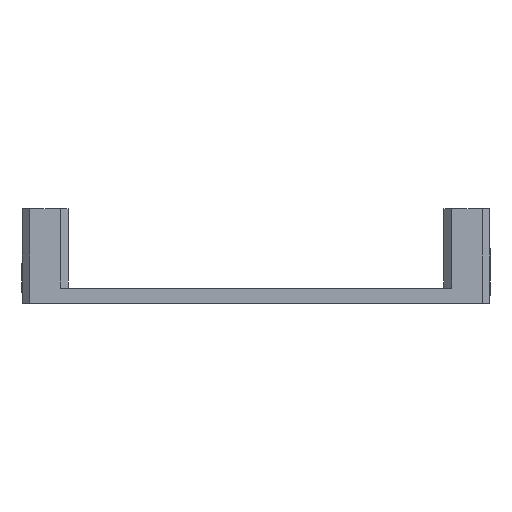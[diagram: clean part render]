
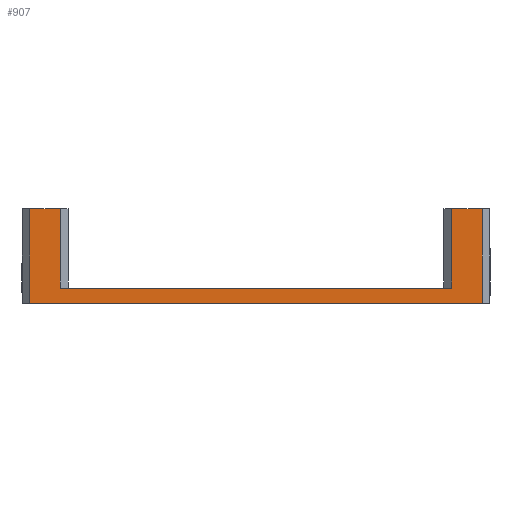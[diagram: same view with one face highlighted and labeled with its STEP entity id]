
A CAD part, front view. The second image highlights one B-rep face of the part: STEP entity #907.
In plain terms, the highlighted planar face has unit normal (0, -1, 0).
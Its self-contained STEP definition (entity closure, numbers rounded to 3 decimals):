
#36 = CARTESIAN_POINT ( 'NONE',  ( 59., -74., 4. ) ) ;
#52 = EDGE_CURVE ( 'NONE', #638, #1961, #683, .T. ) ;
#167 = CARTESIAN_POINT ( 'NONE',  ( -59., -74., 4. ) ) ;
#175 = DIRECTION ( 'NONE',  ( 1., 0., 0. ) ) ;
#234 = EDGE_CURVE ( 'NONE', #385, #1314, #1422, .T. ) ;
#261 = EDGE_CURVE ( 'NONE', #1219, #1961, #670, .T. ) ;
#292 = EDGE_CURVE ( 'NONE', #384, #1219, #1265, .T. ) ;
#300 = VECTOR ( 'NONE', #1042, 1000. ) ;
#331 = ORIENTED_EDGE ( 'NONE', *, *, #878, .F. ) ;
#363 = CARTESIAN_POINT ( 'NONE',  ( -51., -74., 24.7 ) ) ;
#384 = VERTEX_POINT ( 'NONE', #363 ) ;
#385 = VERTEX_POINT ( 'NONE', #1939 ) ;
#428 = CARTESIAN_POINT ( 'NONE',  ( 51., -74., 24.7 ) ) ;
#455 = VECTOR ( 'NONE', #1154, 1000. ) ;
#462 = DIRECTION ( 'NONE',  ( 0., 0., 1. ) ) ;
#482 = DIRECTION ( 'NONE',  ( 1., 0., 0. ) ) ;
#530 = CARTESIAN_POINT ( 'NONE',  ( 51., -74., 24.7 ) ) ;
#553 = ORIENTED_EDGE ( 'NONE', *, *, #52, .T. ) ;
#599 = ORIENTED_EDGE ( 'NONE', *, *, #630, .T. ) ;
#630 = EDGE_CURVE ( 'NONE', #1426, #851, #1515, .T. ) ;
#638 = VERTEX_POINT ( 'NONE', #428 ) ;
#639 = DIRECTION ( 'NONE',  ( 1., 0., 0. ) ) ;
#662 = ORIENTED_EDGE ( 'NONE', *, *, #234, .F. ) ;
#670 = LINE ( 'NONE', #1568, #1015 ) ;
#683 = LINE ( 'NONE', #530, #455 ) ;
#761 = AXIS2_PLACEMENT_3D ( 'NONE', #167, #1687, #462 ) ;
#829 = DIRECTION ( 'NONE',  ( 0., 0., -1. ) ) ;
#851 = VERTEX_POINT ( 'NONE', #947 ) ;
#878 = EDGE_CURVE ( 'NONE', #1426, #384, #1714, .T. ) ;
#907 = ADVANCED_FACE ( 'NONE', ( #1563 ), #1231, .F. ) ;
#925 = CARTESIAN_POINT ( 'NONE',  ( -59., -74., 24.7 ) ) ;
#947 = CARTESIAN_POINT ( 'NONE',  ( -59., -74., 0. ) ) ;
#974 = EDGE_LOOP ( 'NONE', ( #1820, #662, #1144, #553, #1729, #1444, #331, #599 ) ) ;
#1015 = VECTOR ( 'NONE', #175, 1000. ) ;
#1042 = DIRECTION ( 'NONE',  ( 1., 0., 0. ) ) ;
#1048 = CARTESIAN_POINT ( 'NONE',  ( -59., -74., 24.7 ) ) ;
#1074 = LINE ( 'NONE', #1850, #300 ) ;
#1078 = CARTESIAN_POINT ( 'NONE',  ( 51., -74., 4. ) ) ;
#1084 = CARTESIAN_POINT ( 'NONE',  ( -59., -74., 4. ) ) ;
#1087 = EDGE_CURVE ( 'NONE', #638, #385, #1074, .T. ) ;
#1144 = ORIENTED_EDGE ( 'NONE', *, *, #1087, .F. ) ;
#1154 = DIRECTION ( 'NONE',  ( 0., 0., -1. ) ) ;
#1219 = VERTEX_POINT ( 'NONE', #1382 ) ;
#1231 = PLANE ( 'NONE',  #761 ) ;
#1259 = LINE ( 'NONE', #1880, #1324 ) ;
#1265 = LINE ( 'NONE', #1711, #1396 ) ;
#1293 = DIRECTION ( 'NONE',  ( 0., 0., -1. ) ) ;
#1314 = VERTEX_POINT ( 'NONE', #1540 ) ;
#1322 = EDGE_CURVE ( 'NONE', #851, #1314, #1259, .T. ) ;
#1324 = VECTOR ( 'NONE', #482, 1000. ) ;
#1382 = CARTESIAN_POINT ( 'NONE',  ( -51., -74., 4. ) ) ;
#1396 = VECTOR ( 'NONE', #1293, 1000. ) ;
#1422 = LINE ( 'NONE', #36, #1655 ) ;
#1426 = VERTEX_POINT ( 'NONE', #1048 ) ;
#1444 = ORIENTED_EDGE ( 'NONE', *, *, #292, .F. ) ;
#1515 = LINE ( 'NONE', #1084, #2011 ) ;
#1540 = CARTESIAN_POINT ( 'NONE',  ( 59., -74., 0. ) ) ;
#1563 = FACE_OUTER_BOUND ( 'NONE', #974, .T. ) ;
#1568 = CARTESIAN_POINT ( 'NONE',  ( -59., -74., 4. ) ) ;
#1652 = DIRECTION ( 'NONE',  ( 0., 0., -1. ) ) ;
#1655 = VECTOR ( 'NONE', #829, 1000. ) ;
#1687 = DIRECTION ( 'NONE',  ( 0., 1., 0. ) ) ;
#1711 = CARTESIAN_POINT ( 'NONE',  ( -51., -74., 24.7 ) ) ;
#1714 = LINE ( 'NONE', #925, #1927 ) ;
#1729 = ORIENTED_EDGE ( 'NONE', *, *, #261, .F. ) ;
#1820 = ORIENTED_EDGE ( 'NONE', *, *, #1322, .T. ) ;
#1850 = CARTESIAN_POINT ( 'NONE',  ( 51., -74., 24.7 ) ) ;
#1880 = CARTESIAN_POINT ( 'NONE',  ( -59., -74., 0. ) ) ;
#1927 = VECTOR ( 'NONE', #639, 1000. ) ;
#1939 = CARTESIAN_POINT ( 'NONE',  ( 59., -74., 24.7 ) ) ;
#1961 = VERTEX_POINT ( 'NONE', #1078 ) ;
#2011 = VECTOR ( 'NONE', #1652, 1000. ) ;
